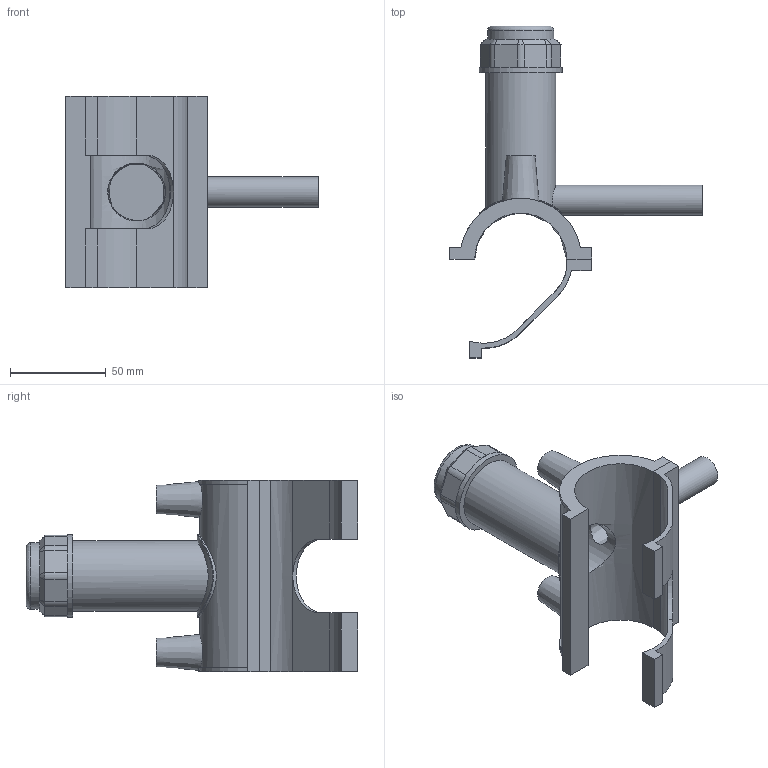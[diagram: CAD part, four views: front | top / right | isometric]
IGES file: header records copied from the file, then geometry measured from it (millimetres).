
Global section: file name: 5963BU03015005.ipt; native system: Autodesk Inventor 2019; preprocessor: unknown; author: KIM; date: 20210830.101439; units: millimetre
Bounding box: 132.08 x 173.65 x 100.08 mm (x, y, z)
Volume: 154650.8 mm3; surface area: 67114.6 mm2
Topology: 2 solids, 2 shells, 108 faces, 277 edges, 181 vertices
Faces by surface type: plane 65, cylinder 22, revolution 10, cone 10, bspline 1
Full cylindrical faces by diameter (mm): 4 x2, 15.8 x1, 34.632 x1, 36.797 x1, 43.29 x2
